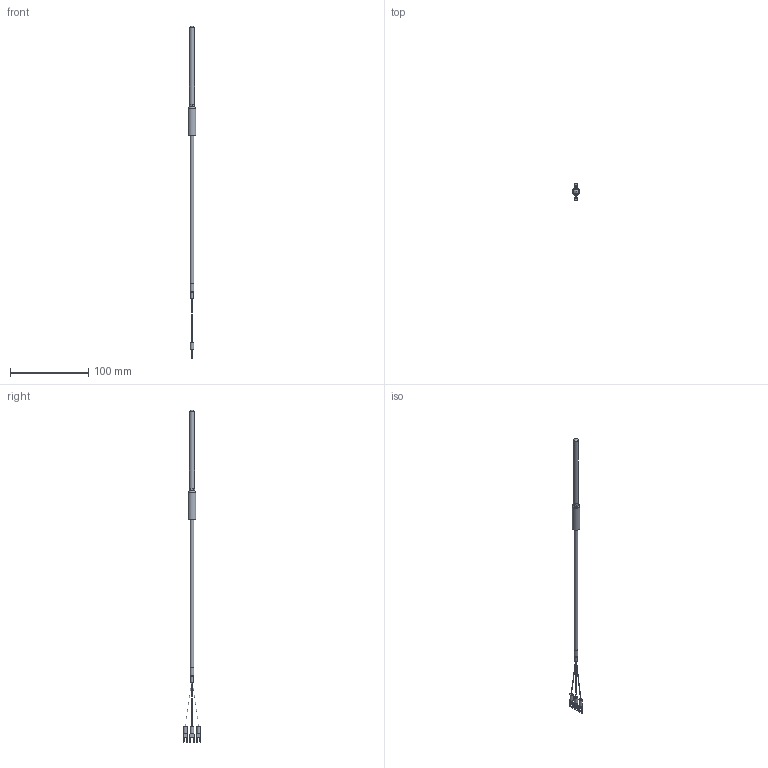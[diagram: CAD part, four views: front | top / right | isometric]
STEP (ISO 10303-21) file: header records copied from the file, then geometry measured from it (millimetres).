
FILE_DESCRIPTION (( 'STEP AP203' ), '1' );
FILE_NAME ('YIR101S-32(0).STEP', '2024-07-25T07:37:28', ( '' ), ( '' ), 'SwSTEP 2.0', 'SolidWorks 2021', '' );
FILE_SCHEMA (( 'CONFIG_CONTROL_DESIGN' ));
Length unit declared in the file: millimetre
Products named in the file (1): YIR101S-32(0)
Bounding box: 10 x 22.96 x 424.72 mm (x, y, z)
Volume: 10407.2 mm3; surface area: 7515.8 mm2
Topology: 1 solids, 1 shells, 88 faces, 217 edges, 142 vertices
Faces by surface type: plane 46, cylinder 30, bspline 8, cone 3, torus 1
Full cylindrical faces by diameter (mm): 0.5 x1, 3.16 x1, 4.5 x3, 4.8 x1, 5 x1, 6.4 x1, 10 x1
Entity records: 2757 total; most frequent: CARTESIAN_POINT 671, DIRECTION 412, ORIENTED_EDGE 394, EDGE_CURVE 197, AXIS2_PLACEMENT_3D 146, VERTEX_POINT 137, LINE 120, VECTOR 120
